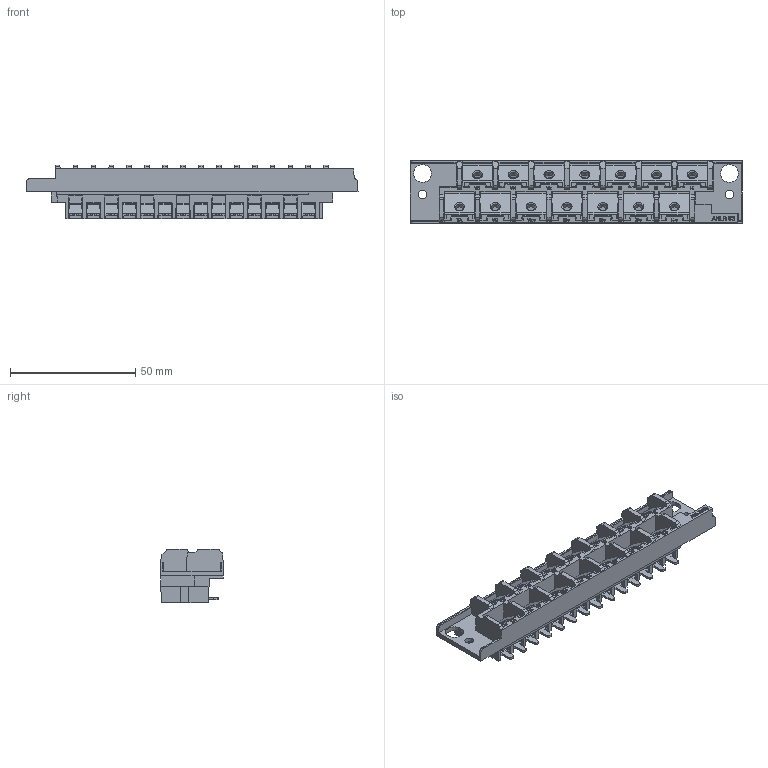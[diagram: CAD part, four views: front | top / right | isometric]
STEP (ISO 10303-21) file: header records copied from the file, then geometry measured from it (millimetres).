
FILE_DESCRIPTION(/* description */ (''),/* implementation_level */ '2;1');
FILE_NAME(/* name */ 'C:\Users\jondi\Desktop\FLEX 3D STP\T3.stp',/* time_stamp */ '2021-03-10T12:47:35-06:00',/* author */ ('jondi'),/* organization */ (''),/* preprocessor_version */ 'ST-DEVELOPER v17.2',/* originating_system */ 'Autodesk Inventor 2019',/* authorisation */ '');
FILE_SCHEMA (('AUTOMOTIVE_DESIGN { 1 0 10303 214 3 1 1 }'));
Length unit declared in the file: inch
Products named in the file (7): T3; 9579230120; 9579230001; CT Connector Housing - Dual Row; Basler CT Metal; Basler CT Metal4; 9579230013
Assembly tree (18 placements, depth 4):
  T3
    9579230120
      9579230001
        CT Connector Housing - Dual Row
      Basler CT Metal  x7
      Basler CT Metal4  x7
    9579230013
Bounding box: 132.55 x 24.98 x 21.46 mm (x, y, z)
Volume: 20012.8 mm3; surface area: 32503 mm2
Topology: 55 solids, 55 shells, 1949 faces, 5240 edges, 3381 vertices
Faces by surface type: plane 1513, cylinder 267, bspline 109, cone 32, torus 28
Full cylindrical faces by diameter (mm): 0.762 x5, 3.302 x14, 4.369 x14
Entity records: 40770 total; most frequent: CARTESIAN_POINT 8485, ORIENTED_EDGE 6976, DIRECTION 5995, EDGE_CURVE 3488, LINE 2945, VECTOR 2945, VERTEX_POINT 2265, AXIS2_PLACEMENT_3D 1525
